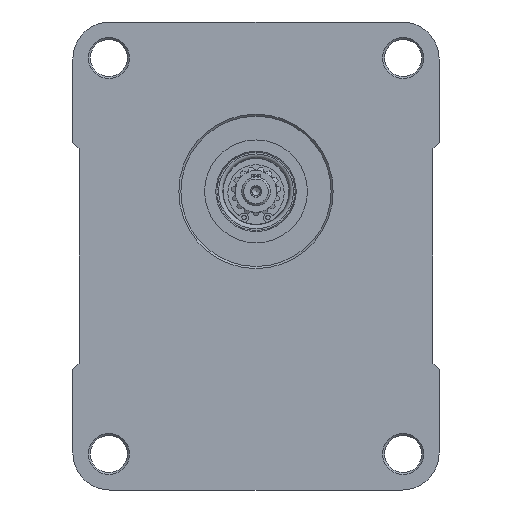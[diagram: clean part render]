
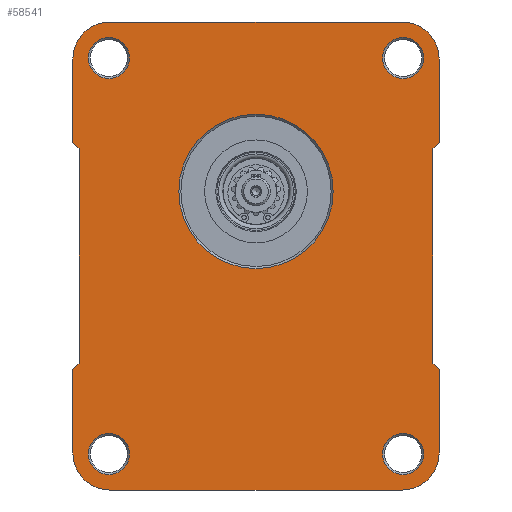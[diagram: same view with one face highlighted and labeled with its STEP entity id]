
A CAD part, front view. The second image highlights one B-rep face of the part: STEP entity #58541.
In plain terms, the highlighted planar face has unit normal (0, -1, 0).
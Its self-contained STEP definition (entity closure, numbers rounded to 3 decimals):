
#3438=LINE('',#79866,#5504);
#3439=LINE('',#79868,#5505);
#3440=LINE('',#79870,#5506);
#3441=LINE('',#79872,#5507);
#3442=LINE('',#79874,#5508);
#3443=LINE('',#79878,#5509);
#3444=LINE('',#79882,#5510);
#3445=LINE('',#79884,#5511);
#3446=LINE('',#79886,#5512);
#3447=LINE('',#79888,#5513);
#3448=LINE('',#79890,#5514);
#3449=LINE('',#79894,#5515);
#5504=VECTOR('',#66651,1000.);
#5505=VECTOR('',#66652,1000.);
#5506=VECTOR('',#66653,1000.);
#5507=VECTOR('',#66654,1000.);
#5508=VECTOR('',#66655,1000.);
#5509=VECTOR('',#66658,1000.);
#5510=VECTOR('',#66661,1000.);
#5511=VECTOR('',#66662,1000.);
#5512=VECTOR('',#66663,1000.);
#5513=VECTOR('',#66664,1000.);
#5514=VECTOR('',#66665,1000.);
#5515=VECTOR('',#66668,1000.);
#9418=ORIENTED_EDGE('',*,*,#21381,.T.);
#9419=ORIENTED_EDGE('',*,*,#21379,.T.);
#9420=ORIENTED_EDGE('',*,*,#21377,.T.);
#9421=ORIENTED_EDGE('',*,*,#21375,.T.);
#9422=ORIENTED_EDGE('',*,*,#21374,.T.);
#9423=ORIENTED_EDGE('',*,*,#21387,.T.);
#9424=ORIENTED_EDGE('',*,*,#21388,.T.);
#9425=ORIENTED_EDGE('',*,*,#21389,.T.);
#9426=ORIENTED_EDGE('',*,*,#21390,.T.);
#9427=ORIENTED_EDGE('',*,*,#21391,.T.);
#9428=ORIENTED_EDGE('',*,*,#21392,.T.);
#9429=ORIENTED_EDGE('',*,*,#21393,.T.);
#9430=ORIENTED_EDGE('',*,*,#21394,.T.);
#9431=ORIENTED_EDGE('',*,*,#21395,.T.);
#9432=ORIENTED_EDGE('',*,*,#21396,.T.);
#9433=ORIENTED_EDGE('',*,*,#21397,.T.);
#9434=ORIENTED_EDGE('',*,*,#21398,.T.);
#9435=ORIENTED_EDGE('',*,*,#21399,.T.);
#9436=ORIENTED_EDGE('',*,*,#21400,.T.);
#9437=ORIENTED_EDGE('',*,*,#21401,.T.);
#9438=ORIENTED_EDGE('',*,*,#21402,.T.);
#21374=EDGE_CURVE('',#27418,#27418,#31077,.F.);
#21375=EDGE_CURVE('',#27419,#27419,#31078,.F.);
#21377=EDGE_CURVE('',#27421,#27421,#31080,.F.);
#21379=EDGE_CURVE('',#27423,#27423,#31082,.F.);
#21381=EDGE_CURVE('',#27425,#27425,#31084,.F.);
#21387=EDGE_CURVE('',#27431,#27432,#31090,.T.);
#21388=EDGE_CURVE('',#27432,#27433,#3438,.T.);
#21389=EDGE_CURVE('',#27433,#27434,#3439,.T.);
#21390=EDGE_CURVE('',#27434,#27435,#3440,.T.);
#21391=EDGE_CURVE('',#27435,#27436,#3441,.T.);
#21392=EDGE_CURVE('',#27436,#27437,#3442,.T.);
#21393=EDGE_CURVE('',#27437,#27438,#31091,.T.);
#21394=EDGE_CURVE('',#27438,#27439,#3443,.T.);
#21395=EDGE_CURVE('',#27439,#27440,#31092,.T.);
#21396=EDGE_CURVE('',#27440,#27441,#3444,.T.);
#21397=EDGE_CURVE('',#27441,#27442,#3445,.T.);
#21398=EDGE_CURVE('',#27442,#27443,#3446,.T.);
#21399=EDGE_CURVE('',#27443,#27444,#3447,.T.);
#21400=EDGE_CURVE('',#27444,#27445,#3448,.T.);
#21401=EDGE_CURVE('',#27445,#27446,#31093,.T.);
#21402=EDGE_CURVE('',#27446,#27431,#3449,.T.);
#27418=VERTEX_POINT('',#79829);
#27419=VERTEX_POINT('',#79832);
#27421=VERTEX_POINT('',#79837);
#27423=VERTEX_POINT('',#79842);
#27425=VERTEX_POINT('',#79847);
#27431=VERTEX_POINT('',#79864);
#27432=VERTEX_POINT('',#79865);
#27433=VERTEX_POINT('',#79867);
#27434=VERTEX_POINT('',#79869);
#27435=VERTEX_POINT('',#79871);
#27436=VERTEX_POINT('',#79873);
#27437=VERTEX_POINT('',#79875);
#27438=VERTEX_POINT('',#79877);
#27439=VERTEX_POINT('',#79879);
#27440=VERTEX_POINT('',#79881);
#27441=VERTEX_POINT('',#79883);
#27442=VERTEX_POINT('',#79885);
#27443=VERTEX_POINT('',#79887);
#27444=VERTEX_POINT('',#79889);
#27445=VERTEX_POINT('',#79891);
#27446=VERTEX_POINT('',#79893);
#31077=CIRCLE('',#61429,18.75);
#31078=CIRCLE('',#61431,5.);
#31080=CIRCLE('',#61434,5.);
#31082=CIRCLE('',#61437,5.);
#31084=CIRCLE('',#61440,5.);
#31090=CIRCLE('',#61451,9.);
#31091=CIRCLE('',#61452,9.);
#31092=CIRCLE('',#61453,9.);
#31093=CIRCLE('',#61454,9.);
#33167=EDGE_LOOP('',(#9418));
#33168=EDGE_LOOP('',(#9419));
#33169=EDGE_LOOP('',(#9420));
#33170=EDGE_LOOP('',(#9421));
#33171=EDGE_LOOP('',(#9422));
#33172=EDGE_LOOP('',(#9423,#9424,#9425,#9426,#9427,#9428,#9429,#9430,#9431,
#9432,#9433,#9434,#9435,#9436,#9437,#9438));
#36163=FACE_BOUND('',#33167,.T.);
#36164=FACE_BOUND('',#33168,.T.);
#36165=FACE_BOUND('',#33169,.T.);
#36166=FACE_BOUND('',#33170,.T.);
#36167=FACE_BOUND('',#33171,.T.);
#36168=FACE_BOUND('',#33172,.T.);
#38924=PLANE('',#61450);
#58541=ADVANCED_FACE('',(#36163,#36164,#36165,#36166,#36167,#36168),#38924,
 .T.);
#61429=AXIS2_PLACEMENT_3D('',#79828,#66605,#66606);
#61431=AXIS2_PLACEMENT_3D('',#79831,#66609,#66610);
#61434=AXIS2_PLACEMENT_3D('',#79836,#66615,#66616);
#61437=AXIS2_PLACEMENT_3D('',#79841,#66621,#66622);
#61440=AXIS2_PLACEMENT_3D('',#79846,#66627,#66628);
#61450=AXIS2_PLACEMENT_3D('',#79862,#66647,#66648);
#61451=AXIS2_PLACEMENT_3D('',#79863,#66649,#66650);
#61452=AXIS2_PLACEMENT_3D('',#79876,#66656,#66657);
#61453=AXIS2_PLACEMENT_3D('',#79880,#66659,#66660);
#61454=AXIS2_PLACEMENT_3D('',#79892,#66666,#66667);
#66605=DIRECTION('',(0.,-1.,0.));
#66606=DIRECTION('',(0.,0.,-1.));
#66609=DIRECTION('',(0.,-1.,0.));
#66610=DIRECTION('',(0.,0.,-1.));
#66615=DIRECTION('',(0.,-1.,0.));
#66616=DIRECTION('',(0.,0.,-1.));
#66621=DIRECTION('',(0.,-1.,0.));
#66622=DIRECTION('',(0.,0.,-1.));
#66627=DIRECTION('',(0.,-1.,0.));
#66628=DIRECTION('',(0.,0.,-1.));
#66647=DIRECTION('',(0.,-1.,0.));
#66648=DIRECTION('',(0.,0.,-1.));
#66649=DIRECTION('',(0.,-1.,0.));
#66650=DIRECTION('',(1.,0.,0.));
#66651=DIRECTION('',(0.,0.,-1.));
#66652=DIRECTION('',(0.707,0.,-0.707));
#66653=DIRECTION('',(0.,0.,-1.));
#66654=DIRECTION('',(-0.707,0.,-0.707));
#66655=DIRECTION('',(0.,0.,-1.));
#66656=DIRECTION('',(0.,-1.,0.));
#66657=DIRECTION('',(1.,0.,0.));
#66658=DIRECTION('',(1.,0.,0.));
#66659=DIRECTION('',(0.,-1.,0.));
#66660=DIRECTION('',(-1.,0.,0.));
#66661=DIRECTION('',(0.,0.,1.));
#66662=DIRECTION('',(-0.707,0.,0.707));
#66663=DIRECTION('',(0.,0.,1.));
#66664=DIRECTION('',(0.707,0.,0.707));
#66665=DIRECTION('',(0.,0.,1.));
#66666=DIRECTION('',(0.,-1.,0.));
#66667=DIRECTION('',(1.,0.,0.));
#66668=DIRECTION('',(-1.,0.,0.));
#79828=CARTESIAN_POINT('',(0.,-31.5,7.5));
#79829=CARTESIAN_POINT('',(0.,-31.5,-11.25));
#79831=CARTESIAN_POINT('',(-35.75,-31.5,39.9));
#79832=CARTESIAN_POINT('',(-35.75,-31.5,34.9));
#79836=CARTESIAN_POINT('',(35.75,-31.5,39.9));
#79837=CARTESIAN_POINT('',(35.75,-31.5,34.9));
#79841=CARTESIAN_POINT('',(-35.75,-31.5,-56.3));
#79842=CARTESIAN_POINT('',(-35.75,-31.5,-61.3));
#79846=CARTESIAN_POINT('',(35.75,-31.5,-56.3));
#79847=CARTESIAN_POINT('',(35.75,-31.5,-61.3));
#79862=CARTESIAN_POINT('',(-35.5,-31.5,39.65));
#79863=CARTESIAN_POINT('',(-35.5,-31.5,39.65));
#79864=CARTESIAN_POINT('',(-35.5,-31.5,48.65));
#79865=CARTESIAN_POINT('',(-44.5,-31.5,39.65));
#79866=CARTESIAN_POINT('',(-44.5,-31.5,39.65));
#79867=CARTESIAN_POINT('',(-44.5,-31.5,19.3));
#79868=CARTESIAN_POINT('',(-43.,-31.5,17.8));
#79869=CARTESIAN_POINT('',(-43.,-31.5,17.8));
#79870=CARTESIAN_POINT('',(-43.,-31.5,17.8));
#79871=CARTESIAN_POINT('',(-43.,-31.5,-34.2));
#79872=CARTESIAN_POINT('',(-43.,-31.5,-34.2));
#79873=CARTESIAN_POINT('',(-44.5,-31.5,-35.7));
#79874=CARTESIAN_POINT('',(-44.5,-31.5,-56.05));
#79875=CARTESIAN_POINT('',(-44.5,-31.5,-56.05));
#79876=CARTESIAN_POINT('',(-35.5,-31.5,-56.05));
#79877=CARTESIAN_POINT('',(-35.5,-31.5,-65.05));
#79878=CARTESIAN_POINT('',(-35.5,-31.5,-65.05));
#79879=CARTESIAN_POINT('',(35.5,-31.5,-65.05));
#79880=CARTESIAN_POINT('',(35.5,-31.5,-56.05));
#79881=CARTESIAN_POINT('',(44.5,-31.5,-56.05));
#79882=CARTESIAN_POINT('',(44.5,-31.5,-56.05));
#79883=CARTESIAN_POINT('',(44.5,-31.5,-35.7));
#79884=CARTESIAN_POINT('',(43.,-31.5,-34.2));
#79885=CARTESIAN_POINT('',(43.,-31.5,-34.2));
#79886=CARTESIAN_POINT('',(43.,-31.5,17.8));
#79887=CARTESIAN_POINT('',(43.,-31.5,17.8));
#79888=CARTESIAN_POINT('',(43.,-31.5,17.8));
#79889=CARTESIAN_POINT('',(44.5,-31.5,19.3));
#79890=CARTESIAN_POINT('',(44.5,-31.5,39.65));
#79891=CARTESIAN_POINT('',(44.5,-31.5,39.65));
#79892=CARTESIAN_POINT('',(35.5,-31.5,39.65));
#79893=CARTESIAN_POINT('',(35.5,-31.5,48.65));
#79894=CARTESIAN_POINT('',(-35.5,-31.5,48.65));
